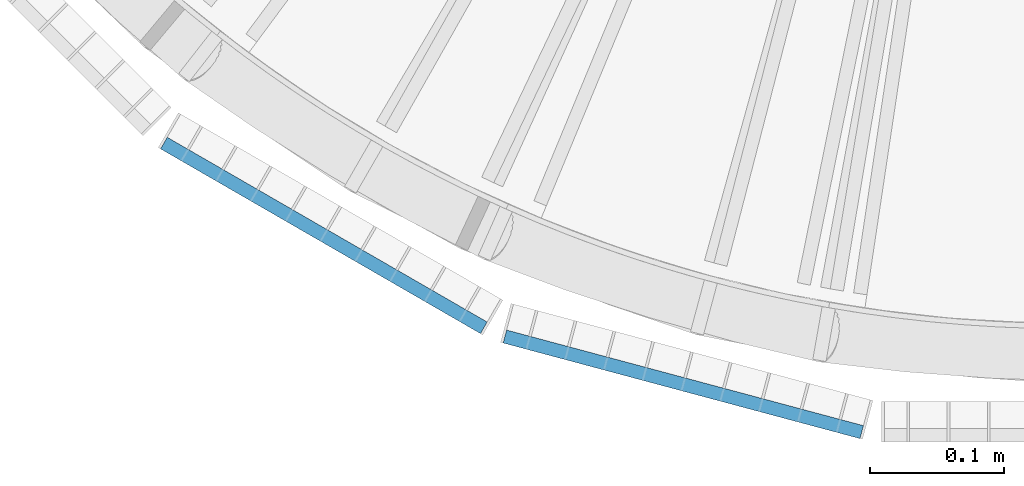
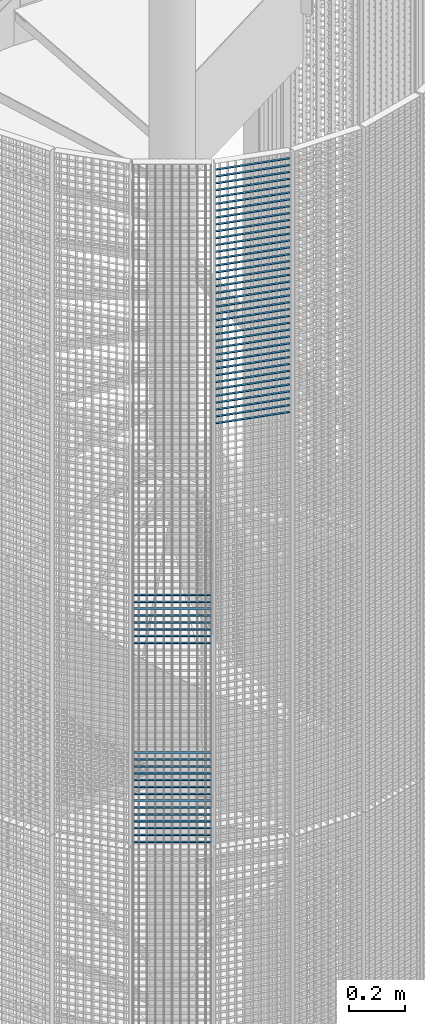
# One storey, part 330 of 1148: 60 beams, 2 elements without a shape of their own.
"""IFC2X3 building model written with IfcOpenShell, lengths in millimetres."""

from ifc_helpers import new_model, si_unit, frame, origin_with_axes, origin_2d_with_axis, place, context, subcontext, project, spatial, rectangle, extrude, material, type_object, element, aggregate, save


model = new_model("IFC2X3")

# Units and contexts
model_context = context("Model", 3, precision=1e-05, world=origin_with_axes())
body_context = subcontext(model_context, "Body", "Model", "MODEL_VIEW")
ifc_project = project(units=[si_unit("LENGTHUNIT", "METRE", prefix="MILLI"), si_unit("AREAUNIT", "SQUARE_METRE"), si_unit("VOLUMEUNIT", "CUBIC_METRE"), si_unit("MASSUNIT", "GRAM", prefix="KILO"), si_unit("TIMEUNIT", "SECOND"), si_unit("PLANEANGLEUNIT", "RADIAN"), si_unit("SOLIDANGLEUNIT", "STERADIAN"), si_unit("THERMODYNAMICTEMPERATUREUNIT", "DEGREE_CELSIUS"), si_unit("LUMINOUSINTENSITYUNIT", "LUMEN")], contexts=[model_context])

# Site, building, storey
site_placement = place(None, origin_with_axes())
site = spatial("IfcSite", under=ifc_project, at=site_placement, Name="Undefined", CompositionType="ELEMENT")
building_placement = place(site_placement, origin_with_axes())
building = spatial("IfcBuilding", under=site, at=building_placement, Name="Undefined", CompositionType="ELEMENT")
storey_placement = place(building_placement, origin_with_axes())
storey = spatial("IfcBuildingStorey", under=building, at=storey_placement, Name="Undefined", CompositionType="ELEMENT", Elevation=0.0)

# Assembly, beams
assembly_1_placement = place(storey_placement, origin_with_axes())
assembly_1 = element("IfcElementAssembly", 1, at=assembly_1_placement, inside=storey, Name="BORDURE", AssemblyPlace="NOTDEFINED", PredefinedType="NOTDEFINED")
ifc_material = material(Name="STEEL/S235JR")
beam_type = type_object("IfcBeamType", Name="PL2*10", PredefinedType="NOTDEFINED")
beam_1_placement = place(assembly_1_placement, frame((21162.7680445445, -1033.29996828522, 15420.0), z_axis=(-0.49999999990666, -0.866025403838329, 0.0), x_axis=(-0.866025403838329, 0.499999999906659, 0.0)))
beam_1 = element("IfcBeam", 2, at=beam_1_placement, type_object=beam_type, material=ifc_material, Name="ENTRETOISE", context=body_context, shape_type="SweptSolid", body=[
    extrude(rectangle(XDim=2.0, YDim=10.0, at=origin_2d_with_axis()), frame((275.999999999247, 9.09494701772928e-13, 1.53210777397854e-14), z_axis=(-1.0, 0.0, 0.0), x_axis=(0.0, -1.0, 0.0)), (0.0, 0.0, 1.0), 276.0),
])
beam_2_placement = place(assembly_1_placement, frame((21162.7680445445, -1033.29996828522, 15900.0), z_axis=(-0.49999999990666, -0.866025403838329, 0.0), x_axis=(-0.866025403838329, 0.499999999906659, 0.0)))
beam_2 = element("IfcBeam", 3, at=beam_2_placement, type_object=beam_type, material=ifc_material, Name="ENTRETOISE", context=body_context, shape_type="SweptSolid", body=[
    extrude(rectangle(XDim=2.0, YDim=10.0, at=origin_2d_with_axis()), frame((275.999999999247, 9.09494701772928e-13, 1.53210777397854e-14), z_axis=(-1.0, 0.0, 0.0), x_axis=(0.0, -1.0, 0.0)), (0.0, 0.0, 1.0), 276.0),
])
beam_3_placement = place(assembly_1_placement, frame((21162.7680445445, -1033.29996828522, 15390.0), z_axis=(-0.49999999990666, -0.866025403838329, 0.0), x_axis=(-0.866025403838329, 0.499999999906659, 0.0)))
beam_3 = element("IfcBeam", 4, at=beam_3_placement, type_object=beam_type, material=ifc_material, Name="ENTRETOISE", context=body_context, shape_type="SweptSolid", body=[
    extrude(rectangle(XDim=2.0, YDim=10.0, at=origin_2d_with_axis()), frame((275.999999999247, 9.09494701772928e-13, 1.53210777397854e-14), z_axis=(-1.0, 0.0, 0.0), x_axis=(0.0, -1.0, 0.0)), (0.0, 0.0, 1.0), 276.0),
])
beam_4_placement = place(assembly_1_placement, frame((21162.7680445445, -1033.29996828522, 15930.0), z_axis=(-0.49999999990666, -0.866025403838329, 0.0), x_axis=(-0.866025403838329, 0.499999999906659, 0.0)))
beam_4 = element("IfcBeam", 5, at=beam_4_placement, type_object=beam_type, material=ifc_material, Name="ENTRETOISE", context=body_context, shape_type="SweptSolid", body=[
    extrude(rectangle(XDim=2.0, YDim=10.0, at=origin_2d_with_axis()), frame((275.999999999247, 9.09494701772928e-13, 1.53210777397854e-14), z_axis=(-1.0, 0.0, 0.0), x_axis=(0.0, -1.0, 0.0)), (0.0, 0.0, 1.0), 276.0),
])
beam_5_placement = place(assembly_1_placement, frame((21162.7680445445, -1033.29996828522, 15360.0), z_axis=(-0.49999999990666, -0.866025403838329, 0.0), x_axis=(-0.866025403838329, 0.499999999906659, 0.0)))
beam_5 = element("IfcBeam", 6, at=beam_5_placement, type_object=beam_type, material=ifc_material, Name="ENTRETOISE", context=body_context, shape_type="SweptSolid", body=[
    extrude(rectangle(XDim=2.0, YDim=10.0, at=origin_2d_with_axis()), frame((275.999999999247, 9.09494701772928e-13, 1.53210777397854e-14), z_axis=(-1.0, 0.0, 0.0), x_axis=(0.0, -1.0, 0.0)), (0.0, 0.0, 1.0), 276.0),
])
beam_6_placement = place(assembly_1_placement, frame((21162.7680445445, -1033.29996828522, 15330.0), z_axis=(-0.49999999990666, -0.866025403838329, 0.0), x_axis=(-0.866025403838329, 0.499999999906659, 0.0)))
beam_6 = element("IfcBeam", 7, at=beam_6_placement, type_object=beam_type, material=ifc_material, Name="ENTRETOISE", context=body_context, shape_type="SweptSolid", body=[
    extrude(rectangle(XDim=2.0, YDim=10.0, at=origin_2d_with_axis()), frame((275.999999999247, 9.09494701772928e-13, 1.53210777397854e-14), z_axis=(-1.0, 0.0, 0.0), x_axis=(0.0, -1.0, 0.0)), (0.0, 0.0, 1.0), 276.0),
])
beam_7_placement = place(assembly_1_placement, frame((21162.7680445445, -1033.29996828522, 15960.0), z_axis=(-0.49999999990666, -0.866025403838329, 0.0), x_axis=(-0.866025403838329, 0.499999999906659, 0.0)))
beam_7 = element("IfcBeam", 8, at=beam_7_placement, type_object=beam_type, material=ifc_material, Name="ENTRETOISE", context=body_context, shape_type="SweptSolid", body=[
    extrude(rectangle(XDim=2.0, YDim=10.0, at=origin_2d_with_axis()), frame((275.999999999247, 9.09494701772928e-13, 1.53210777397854e-14), z_axis=(-1.0, 0.0, 0.0), x_axis=(0.0, -1.0, 0.0)), (0.0, 0.0, 1.0), 276.0),
])
beam_8_placement = place(assembly_1_placement, frame((21162.7680445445, -1033.29996828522, 15300.0), z_axis=(-0.49999999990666, -0.866025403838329, 0.0), x_axis=(-0.866025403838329, 0.499999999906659, 0.0)))
beam_8 = element("IfcBeam", 9, at=beam_8_placement, type_object=beam_type, material=ifc_material, Name="ENTRETOISE", context=body_context, shape_type="SweptSolid", body=[
    extrude(rectangle(XDim=2.0, YDim=10.0, at=origin_2d_with_axis()), frame((275.999999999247, 9.09494701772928e-13, 1.53210777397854e-14), z_axis=(-1.0, 0.0, 0.0), x_axis=(0.0, -1.0, 0.0)), (0.0, 0.0, 1.0), 276.0),
])
beam_9_placement = place(assembly_1_placement, frame((21162.7680445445, -1033.29996828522, 15270.0), z_axis=(-0.49999999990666, -0.866025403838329, 0.0), x_axis=(-0.866025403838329, 0.499999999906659, 0.0)))
beam_9 = element("IfcBeam", 10, at=beam_9_placement, type_object=beam_type, material=ifc_material, Name="ENTRETOISE", context=body_context, shape_type="SweptSolid", body=[
    extrude(rectangle(XDim=2.0, YDim=10.0, at=origin_2d_with_axis()), frame((275.999999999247, 9.09494701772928e-13, 1.53210777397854e-14), z_axis=(-1.0, 0.0, 0.0), x_axis=(0.0, -1.0, 0.0)), (0.0, 0.0, 1.0), 276.0),
])
beam_10_placement = place(assembly_1_placement, frame((21162.7680445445, -1033.29996828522, 15990.0), z_axis=(-0.49999999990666, -0.866025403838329, 0.0), x_axis=(-0.866025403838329, 0.499999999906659, 0.0)))
beam_10 = element("IfcBeam", 11, at=beam_10_placement, type_object=beam_type, material=ifc_material, Name="ENTRETOISE", context=body_context, shape_type="SweptSolid", body=[
    extrude(rectangle(XDim=2.0, YDim=10.0, at=origin_2d_with_axis()), frame((275.999999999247, 9.09494701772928e-13, 1.53210777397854e-14), z_axis=(-1.0, 0.0, 0.0), x_axis=(0.0, -1.0, 0.0)), (0.0, 0.0, 1.0), 276.0),
])
beam_11_placement = place(assembly_1_placement, frame((21162.7680445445, -1033.29996828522, 15240.0), z_axis=(-0.49999999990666, -0.866025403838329, 0.0), x_axis=(-0.866025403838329, 0.499999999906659, 0.0)))
beam_11 = element("IfcBeam", 12, at=beam_11_placement, type_object=beam_type, material=ifc_material, Name="ENTRETOISE", context=body_context, shape_type="SweptSolid", body=[
    extrude(rectangle(XDim=2.0, YDim=10.0, at=origin_2d_with_axis()), frame((275.999999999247, 9.09494701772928e-13, 1.53210777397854e-14), z_axis=(-1.0, 0.0, 0.0), x_axis=(0.0, -1.0, 0.0)), (0.0, 0.0, 1.0), 276.0),
])
beam_12_placement = place(assembly_1_placement, frame((21162.7680445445, -1033.29996828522, 16020.0), z_axis=(-0.49999999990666, -0.866025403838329, 0.0), x_axis=(-0.866025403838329, 0.499999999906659, 0.0)))
beam_12 = element("IfcBeam", 13, at=beam_12_placement, type_object=beam_type, material=ifc_material, Name="ENTRETOISE", context=body_context, shape_type="SweptSolid", body=[
    extrude(rectangle(XDim=2.0, YDim=10.0, at=origin_2d_with_axis()), frame((275.999999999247, 9.09494701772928e-13, 1.53210777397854e-14), z_axis=(-1.0, 0.0, 0.0), x_axis=(0.0, -1.0, 0.0)), (0.0, 0.0, 1.0), 276.0),
])
beam_13_placement = place(assembly_1_placement, frame((21162.7680445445, -1033.29996828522, 15210.0), z_axis=(-0.49999999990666, -0.866025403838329, 0.0), x_axis=(-0.866025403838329, 0.499999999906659, 0.0)))
beam_13 = element("IfcBeam", 14, at=beam_13_placement, type_object=beam_type, material=ifc_material, Name="ENTRETOISE", context=body_context, shape_type="SweptSolid", body=[
    extrude(rectangle(XDim=2.0, YDim=10.0, at=origin_2d_with_axis()), frame((275.999999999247, 9.09494701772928e-13, 1.53210777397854e-14), z_axis=(-1.0, 0.0, 0.0), x_axis=(0.0, -1.0, 0.0)), (0.0, 0.0, 1.0), 276.0),
])
beam_14_placement = place(assembly_1_placement, frame((21162.7680445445, -1033.29996828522, 15180.0), z_axis=(-0.49999999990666, -0.866025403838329, 0.0), x_axis=(-0.866025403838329, 0.499999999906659, 0.0)))
beam_14 = element("IfcBeam", 15, at=beam_14_placement, type_object=beam_type, material=ifc_material, Name="ENTRETOISE", context=body_context, shape_type="SweptSolid", body=[
    extrude(rectangle(XDim=2.0, YDim=10.0, at=origin_2d_with_axis()), frame((275.999999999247, 9.09494701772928e-13, 1.53210777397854e-14), z_axis=(-1.0, 0.0, 0.0), x_axis=(0.0, -1.0, 0.0)), (0.0, 0.0, 1.0), 276.0),
])
beam_15_placement = place(assembly_1_placement, frame((21162.7680445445, -1033.29996828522, 16050.0), z_axis=(-0.49999999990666, -0.866025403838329, 0.0), x_axis=(-0.866025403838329, 0.499999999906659, 0.0)))
beam_15 = element("IfcBeam", 16, at=beam_15_placement, type_object=beam_type, material=ifc_material, Name="ENTRETOISE", context=body_context, shape_type="SweptSolid", body=[
    extrude(rectangle(XDim=2.0, YDim=10.0, at=origin_2d_with_axis()), frame((275.999999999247, 9.09494701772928e-13, 1.53210777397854e-14), z_axis=(-1.0, 0.0, 0.0), x_axis=(0.0, -1.0, 0.0)), (0.0, 0.0, 1.0), 276.0),
])
beam_16_placement = place(assembly_1_placement, frame((21162.7680445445, -1033.29996828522, 15150.0), z_axis=(-0.49999999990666, -0.866025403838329, 0.0), x_axis=(-0.866025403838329, 0.499999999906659, 0.0)))
beam_16 = element("IfcBeam", 17, at=beam_16_placement, type_object=beam_type, material=ifc_material, Name="ENTRETOISE", context=body_context, shape_type="SweptSolid", body=[
    extrude(rectangle(XDim=2.0, YDim=10.0, at=origin_2d_with_axis()), frame((275.999999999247, 9.09494701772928e-13, 1.53210777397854e-14), z_axis=(-1.0, 0.0, 0.0), x_axis=(0.0, -1.0, 0.0)), (0.0, 0.0, 1.0), 276.0),
])
beam_17_placement = place(assembly_1_placement, frame((21162.7680445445, -1033.29996828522, 15120.0), z_axis=(-0.49999999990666, -0.866025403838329, 0.0), x_axis=(-0.866025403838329, 0.499999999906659, 0.0)))
beam_17 = element("IfcBeam", 18, at=beam_17_placement, type_object=beam_type, material=ifc_material, Name="ENTRETOISE", context=body_context, shape_type="SweptSolid", body=[
    extrude(rectangle(XDim=2.0, YDim=10.0, at=origin_2d_with_axis()), frame((275.999999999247, 9.09494701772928e-13, 1.53210777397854e-14), z_axis=(-1.0, 0.0, 0.0), x_axis=(0.0, -1.0, 0.0)), (0.0, 0.0, 1.0), 276.0),
])
beam_18_placement = place(assembly_1_placement, frame((21162.7680445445, -1033.29996828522, 16080.0), z_axis=(-0.49999999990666, -0.866025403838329, 0.0), x_axis=(-0.866025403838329, 0.499999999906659, 0.0)))
beam_18 = element("IfcBeam", 19, at=beam_18_placement, type_object=beam_type, material=ifc_material, Name="ENTRETOISE", context=body_context, shape_type="SweptSolid", body=[
    extrude(rectangle(XDim=2.0, YDim=10.0, at=origin_2d_with_axis()), frame((275.999999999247, 9.09494701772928e-13, 1.53210777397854e-14), z_axis=(-1.0, 0.0, 0.0), x_axis=(0.0, -1.0, 0.0)), (0.0, 0.0, 1.0), 276.0),
])
beam_19_placement = place(assembly_1_placement, frame((21162.7680445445, -1033.29996828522, 15090.0), z_axis=(-0.49999999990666, -0.866025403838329, 0.0), x_axis=(-0.866025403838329, 0.499999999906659, 0.0)))
beam_19 = element("IfcBeam", 20, at=beam_19_placement, type_object=beam_type, material=ifc_material, Name="ENTRETOISE", context=body_context, shape_type="SweptSolid", body=[
    extrude(rectangle(XDim=2.0, YDim=10.0, at=origin_2d_with_axis()), frame((275.999999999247, 9.09494701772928e-13, 1.53210777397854e-14), z_axis=(-1.0, 0.0, 0.0), x_axis=(0.0, -1.0, 0.0)), (0.0, 0.0, 1.0), 276.0),
])
beam_20_placement = place(assembly_1_placement, frame((21162.7680445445, -1033.29996828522, 15060.0), z_axis=(-0.49999999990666, -0.866025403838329, 0.0), x_axis=(-0.866025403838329, 0.499999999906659, 0.0)))
beam_20 = element("IfcBeam", 21, at=beam_20_placement, type_object=beam_type, material=ifc_material, Name="ENTRETOISE", context=body_context, shape_type="SweptSolid", body=[
    extrude(rectangle(XDim=2.0, YDim=10.0, at=origin_2d_with_axis()), frame((275.999999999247, 9.09494701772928e-13, 1.53210777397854e-14), z_axis=(-1.0, 0.0, 0.0), x_axis=(0.0, -1.0, 0.0)), (0.0, 0.0, 1.0), 276.0),
])
beam_21_placement = place(assembly_1_placement, frame((21162.7680445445, -1033.29996828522, 16110.0), z_axis=(-0.49999999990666, -0.866025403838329, 0.0), x_axis=(-0.866025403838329, 0.499999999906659, 0.0)))
beam_21 = element("IfcBeam", 22, at=beam_21_placement, type_object=beam_type, material=ifc_material, Name="ENTRETOISE", context=body_context, shape_type="SweptSolid", body=[
    extrude(rectangle(XDim=2.0, YDim=10.0, at=origin_2d_with_axis()), frame((275.999999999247, 9.09494701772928e-13, 1.53210777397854e-14), z_axis=(-1.0, 0.0, 0.0), x_axis=(0.0, -1.0, 0.0)), (0.0, 0.0, 1.0), 276.0),
])
beam_22_placement = place(assembly_1_placement, frame((21162.7680445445, -1033.29996828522, 15030.0), z_axis=(-0.49999999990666, -0.866025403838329, 0.0), x_axis=(-0.866025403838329, 0.499999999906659, 0.0)))
beam_22 = element("IfcBeam", 23, at=beam_22_placement, type_object=beam_type, material=ifc_material, Name="ENTRETOISE", context=body_context, shape_type="SweptSolid", body=[
    extrude(rectangle(XDim=2.0, YDim=10.0, at=origin_2d_with_axis()), frame((275.999999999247, 9.09494701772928e-13, 1.53210777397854e-14), z_axis=(-1.0, 0.0, 0.0), x_axis=(0.0, -1.0, 0.0)), (0.0, 0.0, 1.0), 276.0),
])
aggregate(assembly_1, [beam_1, beam_2, beam_3, beam_4, beam_5, beam_6, beam_7, beam_8, beam_9, beam_10, beam_11, beam_12, beam_13, beam_14, beam_15, beam_16, beam_17, beam_18, beam_19, beam_20, beam_21, beam_22])

assembly_2_placement = place(storey_placement, origin_with_axes())
assembly_2 = element("IfcElementAssembly", 24, at=assembly_2_placement, inside=storey, Name="BORDURE", AssemblyPlace="NOTDEFINED", PredefinedType="NOTDEFINED")
beam_23_placement = place(assembly_2_placement, frame((21445.1040732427, -1111.25508286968, 17970.0), z_axis=(-0.258819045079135, -0.965925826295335, 0.0), x_axis=(-0.965925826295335, 0.258819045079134, 0.0)))
beam_23 = element("IfcBeam", 25, at=beam_23_placement, type_object=beam_type, material=ifc_material, Name="ENTRETOISE", context=body_context, shape_type="SweptSolid", body=[
    extrude(rectangle(XDim=2.0, YDim=10.0, at=origin_2d_with_axis()), frame((275.999999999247, 9.09494701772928e-13, 1.53210777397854e-14), z_axis=(-1.0, 0.0, 0.0), x_axis=(0.0, -1.0, 0.0)), (0.0, 0.0, 1.0), 276.0),
])
beam_24_placement = place(assembly_2_placement, frame((21445.1040732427, -1111.25508286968, 17940.0), z_axis=(-0.258819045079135, -0.965925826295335, 0.0), x_axis=(-0.965925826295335, 0.258819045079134, 0.0)))
beam_24 = element("IfcBeam", 26, at=beam_24_placement, type_object=beam_type, material=ifc_material, Name="ENTRETOISE", context=body_context, shape_type="SweptSolid", body=[
    extrude(rectangle(XDim=2.0, YDim=10.0, at=origin_2d_with_axis()), frame((275.999999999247, 9.09494701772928e-13, 1.53210777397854e-14), z_axis=(-1.0, 0.0, 0.0), x_axis=(0.0, -1.0, 0.0)), (0.0, 0.0, 1.0), 276.0),
])
beam_25_placement = place(assembly_2_placement, frame((21445.1040732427, -1111.25508286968, 17910.0), z_axis=(-0.258819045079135, -0.965925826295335, 0.0), x_axis=(-0.965925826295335, 0.258819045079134, 0.0)))
beam_25 = element("IfcBeam", 27, at=beam_25_placement, type_object=beam_type, material=ifc_material, Name="ENTRETOISE", context=body_context, shape_type="SweptSolid", body=[
    extrude(rectangle(XDim=2.0, YDim=10.0, at=origin_2d_with_axis()), frame((275.999999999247, 9.09494701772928e-13, 1.53210777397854e-14), z_axis=(-1.0, 0.0, 0.0), x_axis=(0.0, -1.0, 0.0)), (0.0, 0.0, 1.0), 276.0),
])
beam_26_placement = place(assembly_2_placement, frame((21445.1040732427, -1111.25508286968, 17880.0), z_axis=(-0.258819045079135, -0.965925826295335, 0.0), x_axis=(-0.965925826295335, 0.258819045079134, 0.0)))
beam_26 = element("IfcBeam", 28, at=beam_26_placement, type_object=beam_type, material=ifc_material, Name="ENTRETOISE", context=body_context, shape_type="SweptSolid", body=[
    extrude(rectangle(XDim=2.0, YDim=10.0, at=origin_2d_with_axis()), frame((275.999999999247, 9.09494701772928e-13, 1.53210777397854e-14), z_axis=(-1.0, 0.0, 0.0), x_axis=(0.0, -1.0, 0.0)), (0.0, 0.0, 1.0), 276.0),
])
beam_27_placement = place(assembly_2_placement, frame((21445.1040732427, -1111.25508286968, 17850.0), z_axis=(-0.258819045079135, -0.965925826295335, 0.0), x_axis=(-0.965925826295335, 0.258819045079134, 0.0)))
beam_27 = element("IfcBeam", 29, at=beam_27_placement, type_object=beam_type, material=ifc_material, Name="ENTRETOISE", context=body_context, shape_type="SweptSolid", body=[
    extrude(rectangle(XDim=2.0, YDim=10.0, at=origin_2d_with_axis()), frame((275.999999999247, 9.09494701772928e-13, 1.53210777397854e-14), z_axis=(-1.0, 0.0, 0.0), x_axis=(0.0, -1.0, 0.0)), (0.0, 0.0, 1.0), 276.0),
])
beam_28_placement = place(assembly_2_placement, frame((21445.1040732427, -1111.25508286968, 17820.0), z_axis=(-0.258819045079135, -0.965925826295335, 0.0), x_axis=(-0.965925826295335, 0.258819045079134, 0.0)))
beam_28 = element("IfcBeam", 30, at=beam_28_placement, type_object=beam_type, material=ifc_material, Name="ENTRETOISE", context=body_context, shape_type="SweptSolid", body=[
    extrude(rectangle(XDim=2.0, YDim=10.0, at=origin_2d_with_axis()), frame((275.999999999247, 9.09494701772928e-13, 1.53210777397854e-14), z_axis=(-1.0, 0.0, 0.0), x_axis=(0.0, -1.0, 0.0)), (0.0, 0.0, 1.0), 276.0),
])
beam_29_placement = place(assembly_2_placement, frame((21445.1040732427, -1111.25508286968, 17790.0), z_axis=(-0.258819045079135, -0.965925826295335, 0.0), x_axis=(-0.965925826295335, 0.258819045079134, 0.0)))
beam_29 = element("IfcBeam", 31, at=beam_29_placement, type_object=beam_type, material=ifc_material, Name="ENTRETOISE", context=body_context, shape_type="SweptSolid", body=[
    extrude(rectangle(XDim=2.0, YDim=10.0, at=origin_2d_with_axis()), frame((275.999999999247, 9.09494701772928e-13, 1.53210777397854e-14), z_axis=(-1.0, 0.0, 0.0), x_axis=(0.0, -1.0, 0.0)), (0.0, 0.0, 1.0), 276.0),
])
beam_30_placement = place(assembly_2_placement, frame((21445.1040732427, -1111.25508286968, 17760.0), z_axis=(-0.258819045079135, -0.965925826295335, 0.0), x_axis=(-0.965925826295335, 0.258819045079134, 0.0)))
beam_30 = element("IfcBeam", 32, at=beam_30_placement, type_object=beam_type, material=ifc_material, Name="ENTRETOISE", context=body_context, shape_type="SweptSolid", body=[
    extrude(rectangle(XDim=2.0, YDim=10.0, at=origin_2d_with_axis()), frame((275.999999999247, 9.09494701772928e-13, 1.53210777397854e-14), z_axis=(-1.0, 0.0, 0.0), x_axis=(0.0, -1.0, 0.0)), (0.0, 0.0, 1.0), 276.0),
])
beam_31_placement = place(assembly_2_placement, frame((21445.1040732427, -1111.25508286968, 17730.0), z_axis=(-0.258819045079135, -0.965925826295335, 0.0), x_axis=(-0.965925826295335, 0.258819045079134, 0.0)))
beam_31 = element("IfcBeam", 33, at=beam_31_placement, type_object=beam_type, material=ifc_material, Name="ENTRETOISE", context=body_context, shape_type="SweptSolid", body=[
    extrude(rectangle(XDim=2.0, YDim=10.0, at=origin_2d_with_axis()), frame((275.999999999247, 9.09494701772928e-13, 1.53210777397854e-14), z_axis=(-1.0, 0.0, 0.0), x_axis=(0.0, -1.0, 0.0)), (0.0, 0.0, 1.0), 276.0),
])
beam_32_placement = place(assembly_2_placement, frame((21445.1040732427, -1111.25508286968, 17700.0), z_axis=(-0.258819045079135, -0.965925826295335, 0.0), x_axis=(-0.965925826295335, 0.258819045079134, 0.0)))
beam_32 = element("IfcBeam", 34, at=beam_32_placement, type_object=beam_type, material=ifc_material, Name="ENTRETOISE", context=body_context, shape_type="SweptSolid", body=[
    extrude(rectangle(XDim=2.0, YDim=10.0, at=origin_2d_with_axis()), frame((275.999999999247, 9.09494701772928e-13, 1.53210777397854e-14), z_axis=(-1.0, 0.0, 0.0), x_axis=(0.0, -1.0, 0.0)), (0.0, 0.0, 1.0), 276.0),
])
beam_33_placement = place(assembly_2_placement, frame((21445.1040732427, -1111.25508286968, 17670.0), z_axis=(-0.258819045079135, -0.965925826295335, 0.0), x_axis=(-0.965925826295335, 0.258819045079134, 0.0)))
beam_33 = element("IfcBeam", 35, at=beam_33_placement, type_object=beam_type, material=ifc_material, Name="ENTRETOISE", context=body_context, shape_type="SweptSolid", body=[
    extrude(rectangle(XDim=2.0, YDim=10.0, at=origin_2d_with_axis()), frame((275.999999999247, 9.09494701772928e-13, 1.53210777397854e-14), z_axis=(-1.0, 0.0, 0.0), x_axis=(0.0, -1.0, 0.0)), (0.0, 0.0, 1.0), 276.0),
])
beam_34_placement = place(assembly_2_placement, frame((21445.1040732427, -1111.25508286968, 17640.0), z_axis=(-0.258819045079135, -0.965925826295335, 0.0), x_axis=(-0.965925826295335, 0.258819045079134, 0.0)))
beam_34 = element("IfcBeam", 36, at=beam_34_placement, type_object=beam_type, material=ifc_material, Name="ENTRETOISE", context=body_context, shape_type="SweptSolid", body=[
    extrude(rectangle(XDim=2.0, YDim=10.0, at=origin_2d_with_axis()), frame((275.999999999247, 9.09494701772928e-13, 1.53210777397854e-14), z_axis=(-1.0, 0.0, 0.0), x_axis=(0.0, -1.0, 0.0)), (0.0, 0.0, 1.0), 276.0),
])
beam_35_placement = place(assembly_2_placement, frame((21445.1040732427, -1111.25508286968, 17610.0), z_axis=(-0.258819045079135, -0.965925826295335, 0.0), x_axis=(-0.965925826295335, 0.258819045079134, 0.0)))
beam_35 = element("IfcBeam", 37, at=beam_35_placement, type_object=beam_type, material=ifc_material, Name="ENTRETOISE", context=body_context, shape_type="SweptSolid", body=[
    extrude(rectangle(XDim=2.0, YDim=10.0, at=origin_2d_with_axis()), frame((275.999999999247, 9.09494701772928e-13, 1.53210777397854e-14), z_axis=(-1.0, 0.0, 0.0), x_axis=(0.0, -1.0, 0.0)), (0.0, 0.0, 1.0), 276.0),
])
beam_36_placement = place(assembly_2_placement, frame((21445.1040732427, -1111.25508286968, 17580.0), z_axis=(-0.258819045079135, -0.965925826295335, 0.0), x_axis=(-0.965925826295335, 0.258819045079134, 0.0)))
beam_36 = element("IfcBeam", 38, at=beam_36_placement, type_object=beam_type, material=ifc_material, Name="ENTRETOISE", context=body_context, shape_type="SweptSolid", body=[
    extrude(rectangle(XDim=2.0, YDim=10.0, at=origin_2d_with_axis()), frame((275.999999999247, 9.09494701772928e-13, 1.53210777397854e-14), z_axis=(-1.0, 0.0, 0.0), x_axis=(0.0, -1.0, 0.0)), (0.0, 0.0, 1.0), 276.0),
])
beam_37_placement = place(assembly_2_placement, frame((21445.1040732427, -1111.25508286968, 17550.0), z_axis=(-0.258819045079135, -0.965925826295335, 0.0), x_axis=(-0.965925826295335, 0.258819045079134, 0.0)))
beam_37 = element("IfcBeam", 39, at=beam_37_placement, type_object=beam_type, material=ifc_material, Name="ENTRETOISE", context=body_context, shape_type="SweptSolid", body=[
    extrude(rectangle(XDim=2.0, YDim=10.0, at=origin_2d_with_axis()), frame((275.999999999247, 9.09494701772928e-13, 1.53210777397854e-14), z_axis=(-1.0, 0.0, 0.0), x_axis=(0.0, -1.0, 0.0)), (0.0, 0.0, 1.0), 276.0),
])
beam_38_placement = place(assembly_2_placement, frame((21445.1040732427, -1111.25508286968, 17520.0), z_axis=(-0.258819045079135, -0.965925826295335, 0.0), x_axis=(-0.965925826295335, 0.258819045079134, 0.0)))
beam_38 = element("IfcBeam", 40, at=beam_38_placement, type_object=beam_type, material=ifc_material, Name="ENTRETOISE", context=body_context, shape_type="SweptSolid", body=[
    extrude(rectangle(XDim=2.0, YDim=10.0, at=origin_2d_with_axis()), frame((275.999999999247, 9.09494701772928e-13, 1.53210777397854e-14), z_axis=(-1.0, 0.0, 0.0), x_axis=(0.0, -1.0, 0.0)), (0.0, 0.0, 1.0), 276.0),
])
beam_39_placement = place(assembly_2_placement, frame((21445.1040732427, -1111.25508286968, 17490.0), z_axis=(-0.258819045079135, -0.965925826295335, 0.0), x_axis=(-0.965925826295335, 0.258819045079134, 0.0)))
beam_39 = element("IfcBeam", 41, at=beam_39_placement, type_object=beam_type, material=ifc_material, Name="ENTRETOISE", context=body_context, shape_type="SweptSolid", body=[
    extrude(rectangle(XDim=2.0, YDim=10.0, at=origin_2d_with_axis()), frame((275.999999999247, 9.09494701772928e-13, 1.53210777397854e-14), z_axis=(-1.0, 0.0, 0.0), x_axis=(0.0, -1.0, 0.0)), (0.0, 0.0, 1.0), 276.0),
])
beam_40_placement = place(assembly_2_placement, frame((21445.1040732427, -1111.25508286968, 17460.0), z_axis=(-0.258819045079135, -0.965925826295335, 0.0), x_axis=(-0.965925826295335, 0.258819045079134, 0.0)))
beam_40 = element("IfcBeam", 42, at=beam_40_placement, type_object=beam_type, material=ifc_material, Name="ENTRETOISE", context=body_context, shape_type="SweptSolid", body=[
    extrude(rectangle(XDim=2.0, YDim=10.0, at=origin_2d_with_axis()), frame((275.999999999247, 9.09494701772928e-13, 1.53210777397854e-14), z_axis=(-1.0, 0.0, 0.0), x_axis=(0.0, -1.0, 0.0)), (0.0, 0.0, 1.0), 276.0),
])
beam_41_placement = place(assembly_2_placement, frame((21445.1040732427, -1111.25508286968, 17430.0), z_axis=(-0.258819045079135, -0.965925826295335, 0.0), x_axis=(-0.965925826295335, 0.258819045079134, 0.0)))
beam_41 = element("IfcBeam", 43, at=beam_41_placement, type_object=beam_type, material=ifc_material, Name="ENTRETOISE", context=body_context, shape_type="SweptSolid", body=[
    extrude(rectangle(XDim=2.0, YDim=10.0, at=origin_2d_with_axis()), frame((275.999999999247, 9.09494701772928e-13, 1.53210777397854e-14), z_axis=(-1.0, 0.0, 0.0), x_axis=(0.0, -1.0, 0.0)), (0.0, 0.0, 1.0), 276.0),
])
beam_42_placement = place(assembly_2_placement, frame((21445.1040732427, -1111.25508286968, 17400.0), z_axis=(-0.258819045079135, -0.965925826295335, 0.0), x_axis=(-0.965925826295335, 0.258819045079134, 0.0)))
beam_42 = element("IfcBeam", 44, at=beam_42_placement, type_object=beam_type, material=ifc_material, Name="ENTRETOISE", context=body_context, shape_type="SweptSolid", body=[
    extrude(rectangle(XDim=2.0, YDim=10.0, at=origin_2d_with_axis()), frame((275.999999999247, 9.09494701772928e-13, 1.53210777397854e-14), z_axis=(-1.0, 0.0, 0.0), x_axis=(0.0, -1.0, 0.0)), (0.0, 0.0, 1.0), 276.0),
])
beam_43_placement = place(assembly_2_placement, frame((21445.1040732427, -1111.25508286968, 17370.0), z_axis=(-0.258819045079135, -0.965925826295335, 0.0), x_axis=(-0.965925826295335, 0.258819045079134, 0.0)))
beam_43 = element("IfcBeam", 45, at=beam_43_placement, type_object=beam_type, material=ifc_material, Name="ENTRETOISE", context=body_context, shape_type="SweptSolid", body=[
    extrude(rectangle(XDim=2.0, YDim=10.0, at=origin_2d_with_axis()), frame((275.999999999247, 9.09494701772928e-13, 1.53210777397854e-14), z_axis=(-1.0, 0.0, 0.0), x_axis=(0.0, -1.0, 0.0)), (0.0, 0.0, 1.0), 276.0),
])
beam_44_placement = place(assembly_2_placement, frame((21445.1040732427, -1111.25508286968, 17340.0), z_axis=(-0.258819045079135, -0.965925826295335, 0.0), x_axis=(-0.965925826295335, 0.258819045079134, 0.0)))
beam_44 = element("IfcBeam", 46, at=beam_44_placement, type_object=beam_type, material=ifc_material, Name="ENTRETOISE", context=body_context, shape_type="SweptSolid", body=[
    extrude(rectangle(XDim=2.0, YDim=10.0, at=origin_2d_with_axis()), frame((275.999999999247, 9.09494701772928e-13, 1.53210777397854e-14), z_axis=(-1.0, 0.0, 0.0), x_axis=(0.0, -1.0, 0.0)), (0.0, 0.0, 1.0), 276.0),
])
beam_45_placement = place(assembly_2_placement, frame((21445.1040732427, -1111.25508286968, 17310.0), z_axis=(-0.258819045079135, -0.965925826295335, 0.0), x_axis=(-0.965925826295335, 0.258819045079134, 0.0)))
beam_45 = element("IfcBeam", 47, at=beam_45_placement, type_object=beam_type, material=ifc_material, Name="ENTRETOISE", context=body_context, shape_type="SweptSolid", body=[
    extrude(rectangle(XDim=2.0, YDim=10.0, at=origin_2d_with_axis()), frame((275.999999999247, 9.09494701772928e-13, 1.53210777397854e-14), z_axis=(-1.0, 0.0, 0.0), x_axis=(0.0, -1.0, 0.0)), (0.0, 0.0, 1.0), 276.0),
])
beam_46_placement = place(assembly_2_placement, frame((21445.1040732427, -1111.25508286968, 17280.0), z_axis=(-0.258819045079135, -0.965925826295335, 0.0), x_axis=(-0.965925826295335, 0.258819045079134, 0.0)))
beam_46 = element("IfcBeam", 48, at=beam_46_placement, type_object=beam_type, material=ifc_material, Name="ENTRETOISE", context=body_context, shape_type="SweptSolid", body=[
    extrude(rectangle(XDim=2.0, YDim=10.0, at=origin_2d_with_axis()), frame((275.999999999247, 9.09494701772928e-13, 1.53210777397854e-14), z_axis=(-1.0, 0.0, 0.0), x_axis=(0.0, -1.0, 0.0)), (0.0, 0.0, 1.0), 276.0),
])
beam_47_placement = place(assembly_2_placement, frame((21445.1040732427, -1111.25508286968, 17250.0), z_axis=(-0.258819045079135, -0.965925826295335, 0.0), x_axis=(-0.965925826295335, 0.258819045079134, 0.0)))
beam_47 = element("IfcBeam", 49, at=beam_47_placement, type_object=beam_type, material=ifc_material, Name="ENTRETOISE", context=body_context, shape_type="SweptSolid", body=[
    extrude(rectangle(XDim=2.0, YDim=10.0, at=origin_2d_with_axis()), frame((275.999999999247, 9.09494701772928e-13, 1.53210777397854e-14), z_axis=(-1.0, 0.0, 0.0), x_axis=(0.0, -1.0, 0.0)), (0.0, 0.0, 1.0), 276.0),
])
beam_48_placement = place(assembly_2_placement, frame((21445.1040732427, -1111.25508286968, 17220.0), z_axis=(-0.258819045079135, -0.965925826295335, 0.0), x_axis=(-0.965925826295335, 0.258819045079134, 0.0)))
beam_48 = element("IfcBeam", 50, at=beam_48_placement, type_object=beam_type, material=ifc_material, Name="ENTRETOISE", context=body_context, shape_type="SweptSolid", body=[
    extrude(rectangle(XDim=2.0, YDim=10.0, at=origin_2d_with_axis()), frame((275.999999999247, 9.09494701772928e-13, 1.53210777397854e-14), z_axis=(-1.0, 0.0, 0.0), x_axis=(0.0, -1.0, 0.0)), (0.0, 0.0, 1.0), 276.0),
])
beam_49_placement = place(assembly_2_placement, frame((21445.1040732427, -1111.25508286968, 17190.0), z_axis=(-0.258819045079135, -0.965925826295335, 0.0), x_axis=(-0.965925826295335, 0.258819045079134, 0.0)))
beam_49 = element("IfcBeam", 51, at=beam_49_placement, type_object=beam_type, material=ifc_material, Name="ENTRETOISE", context=body_context, shape_type="SweptSolid", body=[
    extrude(rectangle(XDim=2.0, YDim=10.0, at=origin_2d_with_axis()), frame((275.999999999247, 9.09494701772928e-13, 1.53210777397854e-14), z_axis=(-1.0, 0.0, 0.0), x_axis=(0.0, -1.0, 0.0)), (0.0, 0.0, 1.0), 276.0),
])
beam_50_placement = place(assembly_2_placement, frame((21445.1040732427, -1111.25508286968, 17160.0), z_axis=(-0.258819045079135, -0.965925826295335, 0.0), x_axis=(-0.965925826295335, 0.258819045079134, 0.0)))
beam_50 = element("IfcBeam", 52, at=beam_50_placement, type_object=beam_type, material=ifc_material, Name="ENTRETOISE", context=body_context, shape_type="SweptSolid", body=[
    extrude(rectangle(XDim=2.0, YDim=10.0, at=origin_2d_with_axis()), frame((275.999999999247, 9.09494701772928e-13, 1.53210777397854e-14), z_axis=(-1.0, 0.0, 0.0), x_axis=(0.0, -1.0, 0.0)), (0.0, 0.0, 1.0), 276.0),
])
beam_51_placement = place(assembly_2_placement, frame((21445.1040732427, -1111.25508286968, 17130.0), z_axis=(-0.258819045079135, -0.965925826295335, 0.0), x_axis=(-0.965925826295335, 0.258819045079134, 0.0)))
beam_51 = element("IfcBeam", 53, at=beam_51_placement, type_object=beam_type, material=ifc_material, Name="ENTRETOISE", context=body_context, shape_type="SweptSolid", body=[
    extrude(rectangle(XDim=2.0, YDim=10.0, at=origin_2d_with_axis()), frame((275.999999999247, 9.09494701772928e-13, 1.53210777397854e-14), z_axis=(-1.0, 0.0, 0.0), x_axis=(0.0, -1.0, 0.0)), (0.0, 0.0, 1.0), 276.0),
])
beam_52_placement = place(assembly_2_placement, frame((21445.1040732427, -1111.25508286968, 17100.0), z_axis=(-0.258819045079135, -0.965925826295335, 0.0), x_axis=(-0.965925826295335, 0.258819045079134, 0.0)))
beam_52 = element("IfcBeam", 54, at=beam_52_placement, type_object=beam_type, material=ifc_material, Name="ENTRETOISE", context=body_context, shape_type="SweptSolid", body=[
    extrude(rectangle(XDim=2.0, YDim=10.0, at=origin_2d_with_axis()), frame((275.999999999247, 9.09494701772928e-13, 1.53210777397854e-14), z_axis=(-1.0, 0.0, 0.0), x_axis=(0.0, -1.0, 0.0)), (0.0, 0.0, 1.0), 276.0),
])
beam_53_placement = place(assembly_2_placement, frame((21445.1040732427, -1111.25508286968, 17070.0), z_axis=(-0.258819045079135, -0.965925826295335, 0.0), x_axis=(-0.965925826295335, 0.258819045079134, 0.0)))
beam_53 = element("IfcBeam", 55, at=beam_53_placement, type_object=beam_type, material=ifc_material, Name="ENTRETOISE", context=body_context, shape_type="SweptSolid", body=[
    extrude(rectangle(XDim=2.0, YDim=10.0, at=origin_2d_with_axis()), frame((275.999999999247, 9.09494701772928e-13, 1.53210777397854e-14), z_axis=(-1.0, 0.0, 0.0), x_axis=(0.0, -1.0, 0.0)), (0.0, 0.0, 1.0), 276.0),
])
beam_54_placement = place(assembly_2_placement, frame((21445.1040732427, -1111.25508286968, 17040.0), z_axis=(-0.258819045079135, -0.965925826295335, 0.0), x_axis=(-0.965925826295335, 0.258819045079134, 0.0)))
beam_54 = element("IfcBeam", 56, at=beam_54_placement, type_object=beam_type, material=ifc_material, Name="ENTRETOISE", context=body_context, shape_type="SweptSolid", body=[
    extrude(rectangle(XDim=2.0, YDim=10.0, at=origin_2d_with_axis()), frame((275.999999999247, 9.09494701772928e-13, 1.53210777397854e-14), z_axis=(-1.0, 0.0, 0.0), x_axis=(0.0, -1.0, 0.0)), (0.0, 0.0, 1.0), 276.0),
])
beam_55_placement = place(assembly_2_placement, frame((21445.1040732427, -1111.25508286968, 17010.0), z_axis=(-0.258819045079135, -0.965925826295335, 0.0), x_axis=(-0.965925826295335, 0.258819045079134, 0.0)))
beam_55 = element("IfcBeam", 57, at=beam_55_placement, type_object=beam_type, material=ifc_material, Name="ENTRETOISE", context=body_context, shape_type="SweptSolid", body=[
    extrude(rectangle(XDim=2.0, YDim=10.0, at=origin_2d_with_axis()), frame((275.999999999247, 9.09494701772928e-13, 1.53210777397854e-14), z_axis=(-1.0, 0.0, 0.0), x_axis=(0.0, -1.0, 0.0)), (0.0, 0.0, 1.0), 276.0),
])
beam_56_placement = place(assembly_2_placement, frame((21445.1040732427, -1111.25508286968, 16980.0), z_axis=(-0.258819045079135, -0.965925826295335, 0.0), x_axis=(-0.965925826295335, 0.258819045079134, 0.0)))
beam_56 = element("IfcBeam", 58, at=beam_56_placement, type_object=beam_type, material=ifc_material, Name="ENTRETOISE", context=body_context, shape_type="SweptSolid", body=[
    extrude(rectangle(XDim=2.0, YDim=10.0, at=origin_2d_with_axis()), frame((275.999999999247, 9.09494701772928e-13, 1.53210777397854e-14), z_axis=(-1.0, 0.0, 0.0), x_axis=(0.0, -1.0, 0.0)), (0.0, 0.0, 1.0), 276.0),
])
beam_57_placement = place(assembly_2_placement, frame((21445.1040732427, -1111.25508286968, 16950.0), z_axis=(-0.258819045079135, -0.965925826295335, 0.0), x_axis=(-0.965925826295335, 0.258819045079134, 0.0)))
beam_57 = element("IfcBeam", 59, at=beam_57_placement, type_object=beam_type, material=ifc_material, Name="ENTRETOISE", context=body_context, shape_type="SweptSolid", body=[
    extrude(rectangle(XDim=2.0, YDim=10.0, at=origin_2d_with_axis()), frame((275.999999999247, 9.09494701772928e-13, 1.53210777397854e-14), z_axis=(-1.0, 0.0, 0.0), x_axis=(0.0, -1.0, 0.0)), (0.0, 0.0, 1.0), 276.0),
])
beam_58_placement = place(assembly_2_placement, frame((21445.1040732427, -1111.25508286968, 16920.0), z_axis=(-0.258819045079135, -0.965925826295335, 0.0), x_axis=(-0.965925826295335, 0.258819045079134, 0.0)))
beam_58 = element("IfcBeam", 60, at=beam_58_placement, type_object=beam_type, material=ifc_material, Name="ENTRETOISE", context=body_context, shape_type="SweptSolid", body=[
    extrude(rectangle(XDim=2.0, YDim=10.0, at=origin_2d_with_axis()), frame((275.999999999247, 9.09494701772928e-13, 1.53210777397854e-14), z_axis=(-1.0, 0.0, 0.0), x_axis=(0.0, -1.0, 0.0)), (0.0, 0.0, 1.0), 276.0),
])
beam_59_placement = place(assembly_2_placement, frame((21445.1040732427, -1111.25508286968, 16890.0), z_axis=(-0.258819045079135, -0.965925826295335, 0.0), x_axis=(-0.965925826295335, 0.258819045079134, 0.0)))
beam_59 = element("IfcBeam", 61, at=beam_59_placement, type_object=beam_type, material=ifc_material, Name="ENTRETOISE", context=body_context, shape_type="SweptSolid", body=[
    extrude(rectangle(XDim=2.0, YDim=10.0, at=origin_2d_with_axis()), frame((275.999999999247, 9.09494701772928e-13, 1.53210777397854e-14), z_axis=(-1.0, 0.0, 0.0), x_axis=(0.0, -1.0, 0.0)), (0.0, 0.0, 1.0), 276.0),
])
beam_60_placement = place(assembly_2_placement, frame((21445.1040732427, -1111.25508286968, 16860.0), z_axis=(-0.258819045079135, -0.965925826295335, 0.0), x_axis=(-0.965925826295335, 0.258819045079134, 0.0)))
beam_60 = element("IfcBeam", 62, at=beam_60_placement, type_object=beam_type, material=ifc_material, Name="ENTRETOISE", context=body_context, shape_type="SweptSolid", body=[
    extrude(rectangle(XDim=2.0, YDim=10.0, at=origin_2d_with_axis()), frame((275.999999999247, 9.09494701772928e-13, 1.53210777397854e-14), z_axis=(-1.0, 0.0, 0.0), x_axis=(0.0, -1.0, 0.0)), (0.0, 0.0, 1.0), 276.0),
])
aggregate(assembly_2, [beam_23, beam_24, beam_25, beam_26, beam_27, beam_28, beam_29, beam_30, beam_31, beam_32, beam_33, beam_34, beam_35, beam_36, beam_37, beam_38, beam_39, beam_40, beam_41, beam_42, beam_43, beam_44, beam_45, beam_46, beam_47, beam_48, beam_49, beam_50, beam_51, beam_52, beam_53, beam_54, beam_55, beam_56, beam_57, beam_58, beam_59, beam_60])

save(model, "model.ifc")
